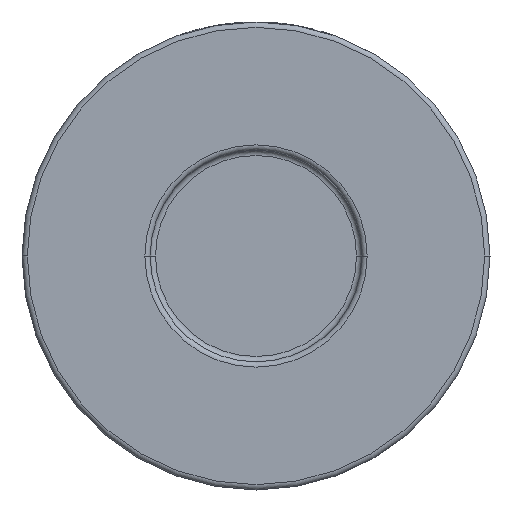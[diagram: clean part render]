
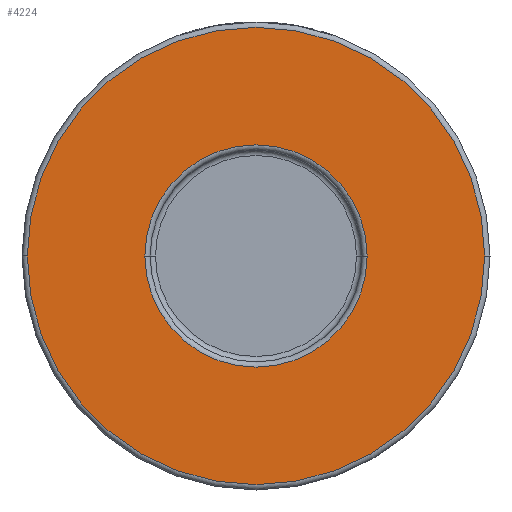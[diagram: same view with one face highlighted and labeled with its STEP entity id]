
A CAD part, front view. The second image highlights one B-rep face of the part: STEP entity #4224.
In plain terms, the highlighted planar face has unit normal (0, -1, 0).
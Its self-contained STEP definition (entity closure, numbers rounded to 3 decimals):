
#32 = FACE_OUTER_BOUND ( 'NONE', #3785, .T. ) ;
#103 = DIRECTION ( 'NONE',  ( 0., -1., 0. ) ) ;
#138 = VERTEX_POINT ( 'NONE', #4457 ) ;
#273 = VERTEX_POINT ( 'NONE', #3548 ) ;
#692 = DIRECTION ( 'NONE',  ( 1., 0., 0. ) ) ;
#716 = AXIS2_PLACEMENT_3D ( 'NONE', #2355, #1600, #2013 ) ;
#785 = DIRECTION ( 'NONE',  ( 0., 1., 0. ) ) ;
#799 = EDGE_CURVE ( 'NONE', #273, #138, #3523, .T. ) ;
#845 = ORIENTED_EDGE ( 'NONE', *, *, #1760, .T. ) ;
#850 = CARTESIAN_POINT ( 'NONE',  ( 0., -19., 0. ) ) ;
#933 = AXIS2_PLACEMENT_3D ( 'NONE', #850, #785, #1530 ) ;
#1077 = CIRCLE ( 'NONE', #1903, 43. ) ;
#1102 = EDGE_LOOP ( 'NONE', ( #845, #1588 ) ) ;
#1223 = ORIENTED_EDGE ( 'NONE', *, *, #799, .T. ) ;
#1344 = EDGE_CURVE ( 'NONE', #138, #273, #1077, .T. ) ;
#1451 = CIRCLE ( 'NONE', #933, 20.9 ) ;
#1468 = EDGE_CURVE ( 'NONE', #3699, #1604, #1451, .T. ) ;
#1473 = CARTESIAN_POINT ( 'NONE',  ( -20.9, -19., 0. ) ) ;
#1530 = DIRECTION ( 'NONE',  ( 1., 0., 0. ) ) ;
#1588 = ORIENTED_EDGE ( 'NONE', *, *, #1468, .T. ) ;
#1600 = DIRECTION ( 'NONE',  ( 0., 1., 0. ) ) ;
#1604 = VERTEX_POINT ( 'NONE', #2662 ) ;
#1760 = EDGE_CURVE ( 'NONE', #1604, #3699, #4132, .T. ) ;
#1903 = AXIS2_PLACEMENT_3D ( 'NONE', #3834, #4587, #692 ) ;
#2013 = DIRECTION ( 'NONE',  ( 1., 0., 0. ) ) ;
#2218 = ORIENTED_EDGE ( 'NONE', *, *, #1344, .T. ) ;
#2355 = CARTESIAN_POINT ( 'NONE',  ( 0., -19., 0. ) ) ;
#2424 = DIRECTION ( 'NONE',  ( 1., 0., 0. ) ) ;
#2571 = FACE_BOUND ( 'NONE', #1102, .T. ) ;
#2662 = CARTESIAN_POINT ( 'NONE',  ( 20.9, -19., 0. ) ) ;
#2831 = AXIS2_PLACEMENT_3D ( 'NONE', #3976, #103, #4288 ) ;
#3148 = AXIS2_PLACEMENT_3D ( 'NONE', #4192, #3492, #2424 ) ;
#3492 = DIRECTION ( 'NONE',  ( 0., -1., 0. ) ) ;
#3523 = CIRCLE ( 'NONE', #3148, 43. ) ;
#3548 = CARTESIAN_POINT ( 'NONE',  ( 43., -19., 0. ) ) ;
#3699 = VERTEX_POINT ( 'NONE', #1473 ) ;
#3785 = EDGE_LOOP ( 'NONE', ( #1223, #2218 ) ) ;
#3834 = CARTESIAN_POINT ( 'NONE',  ( 0., -19., 0. ) ) ;
#3926 = PLANE ( 'NONE',  #2831 ) ;
#3976 = CARTESIAN_POINT ( 'NONE',  ( 44., -19., 0. ) ) ;
#4132 = CIRCLE ( 'NONE', #716, 20.9 ) ;
#4192 = CARTESIAN_POINT ( 'NONE',  ( 0., -19., 0. ) ) ;
#4224 = ADVANCED_FACE ( 'NONE', ( #2571, #32 ), #3926, .T. ) ;
#4288 = DIRECTION ( 'NONE',  ( 1., 0., 0. ) ) ;
#4457 = CARTESIAN_POINT ( 'NONE',  ( -43., -19., 0. ) ) ;
#4587 = DIRECTION ( 'NONE',  ( 0., -1., 0. ) ) ;
